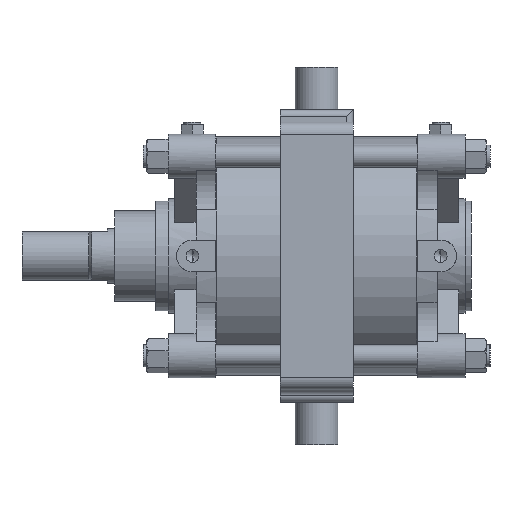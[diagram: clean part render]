
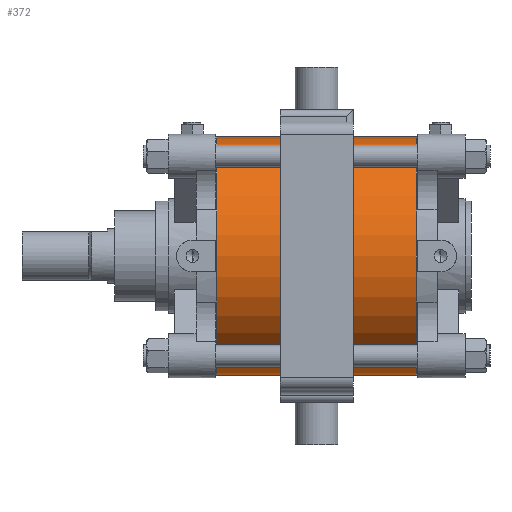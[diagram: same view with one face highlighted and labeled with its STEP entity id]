
A CAD part, front view. The second image highlights one B-rep face of the part: STEP entity #372.
In plain terms, the highlighted cylindrical face has radius 98 mm (diameter 196 mm), a partial arc.
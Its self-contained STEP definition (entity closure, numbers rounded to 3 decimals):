
#372 = ADVANCED_FACE ( 'NONE', ( #8125 ), #3418, .T. ) ;
#386 = CARTESIAN_POINT ( 'NONE',  ( 82., 0., 0. ) ) ;
#442 = ORIENTED_EDGE ( 'NONE', *, *, #9206, .F. ) ;
#1285 = DIRECTION ( 'NONE',  ( 0., 0., 1. ) ) ;
#1634 = CARTESIAN_POINT ( 'NONE',  ( 82., 0., 98. ) ) ;
#2397 = VECTOR ( 'NONE', #6671, 1000. ) ;
#2598 = LINE ( 'NONE', #4750, #2397 ) ;
#2876 = DIRECTION ( 'NONE',  ( -1., 0., 0. ) ) ;
#3418 = CYLINDRICAL_SURFACE ( 'NONE', #4562, 98. ) ;
#3654 = VERTEX_POINT ( 'NONE', #7159 ) ;
#3673 = DIRECTION ( 'NONE',  ( 1., 0., 0. ) ) ;
#3866 = VECTOR ( 'NONE', #9799, 1000. ) ;
#4189 = DIRECTION ( 'NONE',  ( 0., 0., -1. ) ) ;
#4253 = EDGE_LOOP ( 'NONE', ( #7116, #442, #4324, #8569 ) ) ;
#4324 = ORIENTED_EDGE ( 'NONE', *, *, #10536, .T. ) ;
#4423 = EDGE_CURVE ( 'NONE', #3654, #8347, #8895, .T. ) ;
#4562 = AXIS2_PLACEMENT_3D ( 'NONE', #386, #2876, #1285 ) ;
#4750 = CARTESIAN_POINT ( 'NONE',  ( 82., 0., 98. ) ) ;
#5996 = CIRCLE ( 'NONE', #9105, 98. ) ;
#6284 = DIRECTION ( 'NONE',  ( 1., 0., 0. ) ) ;
#6671 = DIRECTION ( 'NONE',  ( -1., 0., 0. ) ) ;
#7116 = ORIENTED_EDGE ( 'NONE', *, *, #4423, .F. ) ;
#7159 = CARTESIAN_POINT ( 'NONE',  ( 82., 0., -98. ) ) ;
#7320 = CARTESIAN_POINT ( 'NONE',  ( 82., 0., -98. ) ) ;
#7879 = CARTESIAN_POINT ( 'NONE',  ( -82., 0., 98. ) ) ;
#8125 = FACE_OUTER_BOUND ( 'NONE', #4253, .T. ) ;
#8347 = VERTEX_POINT ( 'NONE', #10572 ) ;
#8569 = ORIENTED_EDGE ( 'NONE', *, *, #9209, .T. ) ;
#8895 = LINE ( 'NONE', #7320, #3866 ) ;
#8909 = DIRECTION ( 'NONE',  ( 0., 0., -1. ) ) ;
#9105 = AXIS2_PLACEMENT_3D ( 'NONE', #9984, #6284, #8909 ) ;
#9116 = CARTESIAN_POINT ( 'NONE',  ( -82., 0., 0. ) ) ;
#9206 = EDGE_CURVE ( 'NONE', #10254, #3654, #5996, .T. ) ;
#9209 = EDGE_CURVE ( 'NONE', #10475, #8347, #9637, .T. ) ;
#9637 = CIRCLE ( 'NONE', #9837, 98. ) ;
#9799 = DIRECTION ( 'NONE',  ( -1., 0., 0. ) ) ;
#9837 = AXIS2_PLACEMENT_3D ( 'NONE', #9116, #3673, #4189 ) ;
#9984 = CARTESIAN_POINT ( 'NONE',  ( 82., 0., 0. ) ) ;
#10254 = VERTEX_POINT ( 'NONE', #1634 ) ;
#10475 = VERTEX_POINT ( 'NONE', #7879 ) ;
#10536 = EDGE_CURVE ( 'NONE', #10254, #10475, #2598, .T. ) ;
#10572 = CARTESIAN_POINT ( 'NONE',  ( -82., 0., -98. ) ) ;
